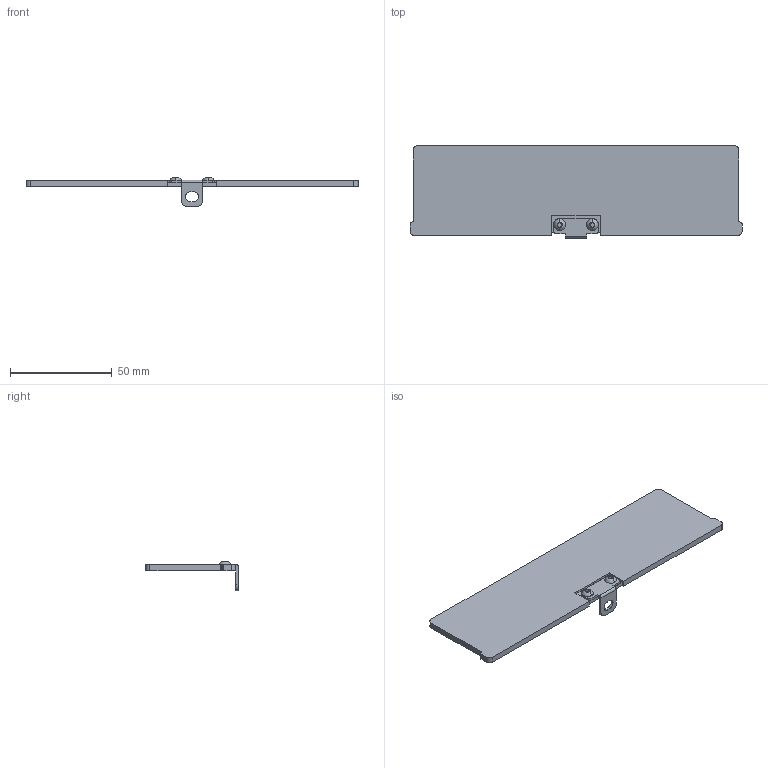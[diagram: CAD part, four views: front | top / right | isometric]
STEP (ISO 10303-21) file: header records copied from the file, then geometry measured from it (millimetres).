
FILE_DESCRIPTION((''),'2;1');
FILE_NAME('FG_VC_BASIC_C0072NP001','2026-02-23T17:20:58',('Admin'),(''),'CREO PARAMETRIC BY PTC INC, 2025010','CREO PARAMETRIC BY PTC INC, 2025010','');
FILE_SCHEMA(('CONFIG_CONTROL_DESIGN'));
Length unit declared in the file: millimetre
Products named in the file (1): FG_VC_BASIC_C0072NP001
Bounding box: 163 x 45.35 x 14.45 mm (x, y, z)
Volume: 21240.8 mm3; surface area: 15754.3 mm2
Topology: 1 solids, 3 shells, 90 faces, 240 edges, 158 vertices
Faces by surface type: plane 52, cylinder 30, sphere 4, cone 4
Entity records: 2848 total; most frequent: DIRECTION 502, CARTESIAN_POINT 484, ORIENTED_EDGE 472, EDGE_CURVE 236, AXIS2_PLACEMENT_3D 176, VERTEX_POINT 158, VECTOR 150, LINE 150
